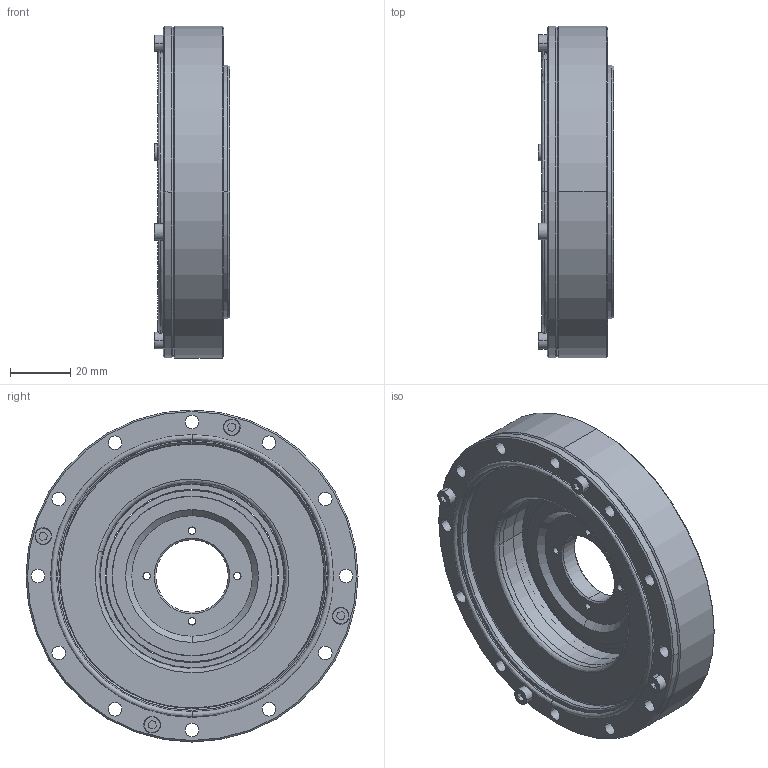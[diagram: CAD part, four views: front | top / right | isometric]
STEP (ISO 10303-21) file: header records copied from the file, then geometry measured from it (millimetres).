
FILE_DESCRIPTION (( 'STEP AP214' ), '1' );
FILE_NAME ('SHD-25-XXX-2SH.STEP', '2023-03-25T06:13:46', ( 'Admin' ), ( '' ), 'SwSTEP 2.0', 'SolidWorks 2018', '' );
FILE_SCHEMA (( 'AUTOMOTIVE_DESIGN' ));
Length unit declared in the file: millimetre
Products named in the file (41): SHD-25-XXX-SH; SHD-25-XXX-SH_2; SHD-25-XXX-SH_21; SHD-25-XXX-SH_18; SHD-25-XXX-SH_13; SHD-25-XXX-SH_15; SHD-25-XXX-SH_8; SHD-25-XXX-SH_29; SHD-25-XXX-SH_27; SHD-25-XXX-SH_20; SHD-25-XXX-SH_24; SHD-25-XXX-SH_26; SHD-25-XXX-SH_16; SHD-25-XXX-SH_6; SHD-25-XXX-2SH; SHD-25-XXX-SH_5; SHD-25-XXX-SH_32; SHD-25-XXX-SH_19; SHD-25-XXX-SH_4; SHD-25-XXX-SH_37; SHD-25-XXX-SH_34; SHD-25-XXX-SH_36; SHD-25-XXX-SH_3; SHD-25-XXX-SH_9; SHD-25-XXX-SH_17; SHD-25-XXX-SH_14; SHD-25-XXX-SH_35; SHD-25-XXX-SH_38; SHD-25-XXX-SH_11; SHD-25-XXX-SH_30; SHD-25-XXX-SH_28; SHD-25-XXX-SH_23; SHD-25-XXX-SH_33; SHD-25-XXX-SH_22; SHD-25-XXX-SH_7; SHD-25-XXX-SH_40; SHD-25-XXX-SH_39; SHD-25-XXX-SH_25; SHD-25-XXX-SH_31; SHD-25-XXX-SH_10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
Assembly tree (40 placements, depth 2):
  SHD-25-XXX-2SH
    SHD-25-XXX-SH_11
    SHD-25-XXX-SH_30
    SHD-25-XXX-SH_14
    SHD-25-XXX-SH_19
    SHD-25-XXX-SH_35
    SHD-25-XXX-SH_32
    SHD-25-XXX-SH_9
    SHD-25-XXX-SH_39
    SHD-25-XXX-SH_4
    SHD-25-XXX-SH_21
    SHD-25-XXX-SH_6
    SHD-25-XXX-SH_13
    SHD-25-XXX-SH_10
    SHD-25-XXX-SH_8
    SHD-25-XXX-SH
    SHD-25-XXX-SH_7
    SHD-25-XXX-SH_36
    SHD-25-XXX-SH_16
    SHD-25-XXX-SH_24
    SHD-25-XXX-SH_33
    SHD-25-XXX-SH_12
    SHD-25-XXX-SH_26
    SHD-25-XXX-SH_31
    SHD-25-XXX-SH_5
    SHD-25-XXX-SH_20
    SHD-25-XXX-SH_22
    SHD-25-XXX-SH_34
    SHD-25-XXX-SH_15
    SHD-25-XXX-SH_23
    SHD-25-XXX-SH_28
    SHD-25-XXX-SH_18
    SHD-25-XXX-SH_27
    SHD-25-XXX-SH_37
    SHD-25-XXX-SH_2
    SHD-25-XXX-SH_3
    SHD-25-XXX-SH_38
    SHD-25-XXX-SH_17
    SHD-25-XXX-SH_40
    SHD-25-XXX-SH_29
    SHD-25-XXX-SH_25
Bounding box: 25 x 110 x 110 mm (x, y, z)
Volume: 119678.4 mm3; surface area: 92667.1 mm2
Topology: 40 solids, 40 shells, 603 faces, 1525 edges, 901 vertices
Faces by surface type: cylinder 264, cone 118, plane 117, bspline 104
Entity records: 23524 total; most frequent: CARTESIAN_POINT 7595, DIRECTION 3280, ORIENTED_EDGE 2770, AXIS2_PLACEMENT_3D 1391, EDGE_CURVE 1385, VERTEX_POINT 901, CIRCLE 849, EDGE_LOOP 730
